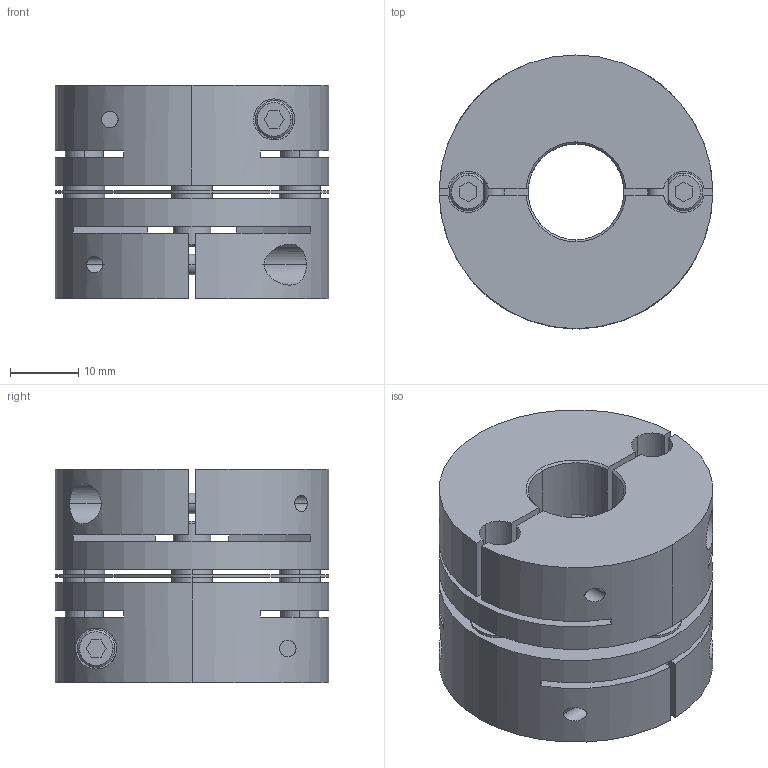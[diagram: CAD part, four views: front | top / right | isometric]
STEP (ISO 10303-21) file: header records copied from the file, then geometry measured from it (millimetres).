
FILE_DESCRIPTION((''),'2;1');
FILE_NAME('LAS-40C-14×16.stp','2011-08-11T09:01:27',(''),(''),'AutoCAD STEP 2000i','AutoCAD 2000i',', , ');
FILE_SCHEMA(('CONFIG_CONTROL_DESIGN'));
Length unit declared in the file: millimetre
Products named in the file (6): LAS-40C-10×15; 忣兜1; LA-4002-D15; LA-4002-D10-1; LA-4002-D10; LAS40-ITA
Assembly tree (5 placements, depth 2):
  LAS-40C-10×15
    忣兜1
    LA-4002-D15
    LA-4002-D10-1
    LA-4002-D10
    LAS40-ITA
Bounding box: 40 x 40 x 31.2 mm (x, y, z)
Volume: 28979.9 mm3; surface area: 15175.6 mm2
Topology: 1 solids, 1 shells, 236 faces, 624 edges, 408 vertices
Faces by surface type: plane 112, cylinder 96, cone 28
Entity records: 8177 total; most frequent: CARTESIAN_POINT 1970, DIRECTION 1304, ORIENTED_EDGE 1248, EDGE_CURVE 624, AXIS2_PLACEMENT_3D 478, VERTEX_POINT 408, VECTOR 348, LINE 348
